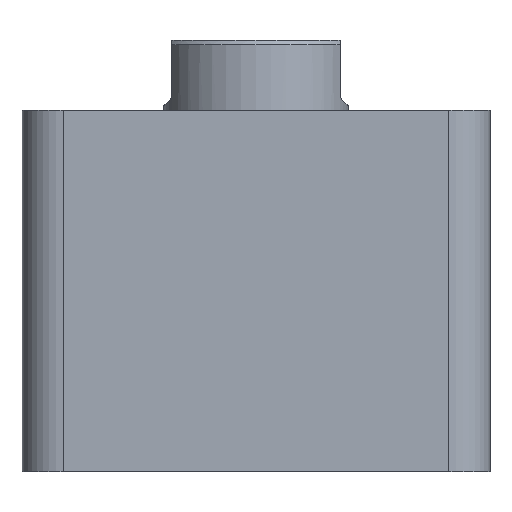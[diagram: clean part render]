
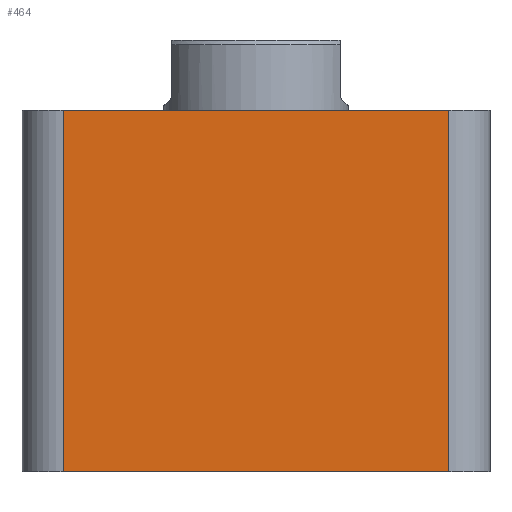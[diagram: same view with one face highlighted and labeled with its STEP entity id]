
A CAD part, front view. The second image highlights one B-rep face of the part: STEP entity #464.
In plain terms, the highlighted planar face has unit normal (0, -1, 0).
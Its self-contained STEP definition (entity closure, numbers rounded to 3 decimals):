
#289 = VERTEX_POINT ( 'NONE', #619 ) ;
#290 = VERTEX_POINT ( 'NONE', #618 ) ;
#301 = VERTEX_POINT ( 'NONE', #607 ) ;
#302 = VERTEX_POINT ( 'NONE', #606 ) ;
#396 = DIRECTION ( 'NONE',  ( 0., 0., 1. ) ) ;
#398 = DIRECTION ( 'NONE',  ( 0., 1., 0. ) ) ;
#403 = CARTESIAN_POINT ( 'NONE',  ( -57., -57., 88. ) ) ;
#411 = PLANE ( 'NONE',  #2121 ) ;
#464 = ADVANCED_FACE ( 'NONE', ( #2244 ), #411, .F. ) ;
#606 = CARTESIAN_POINT ( 'NONE',  ( -47., -57., 0. ) ) ;
#607 = CARTESIAN_POINT ( 'NONE',  ( 47., -57., 0. ) ) ;
#618 = CARTESIAN_POINT ( 'NONE',  ( 47., -57., 88. ) ) ;
#619 = CARTESIAN_POINT ( 'NONE',  ( -47., -57., 88. ) ) ;
#741 = CARTESIAN_POINT ( 'NONE',  ( -57., -57., 0. ) ) ;
#747 = DIRECTION ( 'NONE',  ( 1., 0., 0. ) ) ;
#839 = CARTESIAN_POINT ( 'NONE',  ( 47., -57., 88. ) ) ;
#840 = DIRECTION ( 'NONE',  ( 0., 0., 1. ) ) ;
#841 = CARTESIAN_POINT ( 'NONE',  ( -57., -57., 88. ) ) ;
#842 = DIRECTION ( 'NONE',  ( 1., 0., 0. ) ) ;
#843 = CARTESIAN_POINT ( 'NONE',  ( -47., -57., 88. ) ) ;
#844 = DIRECTION ( 'NONE',  ( 0., 0., -1. ) ) ;
#1258 = EDGE_CURVE ( 'NONE', #302, #301, #2326, .T. ) ;
#1973 = EDGE_CURVE ( 'NONE', #301, #290, #2669, .T. ) ;
#1974 = EDGE_CURVE ( 'NONE', #289, #290, #2667, .T. ) ;
#1975 = EDGE_CURVE ( 'NONE', #289, #302, #2665, .T. ) ;
#2121 = AXIS2_PLACEMENT_3D ( 'NONE', #403, #398, #396 ) ;
#2244 = FACE_OUTER_BOUND ( 'NONE', #2542, .T. ) ;
#2286 = ORIENTED_EDGE ( 'NONE', *, *, #1258, .T. ) ;
#2287 = ORIENTED_EDGE ( 'NONE', *, *, #1973, .T. ) ;
#2288 = ORIENTED_EDGE ( 'NONE', *, *, #1974, .F. ) ;
#2289 = ORIENTED_EDGE ( 'NONE', *, *, #1975, .T. ) ;
#2322 = VECTOR ( 'NONE', #747, 1000. ) ;
#2326 = LINE ( 'NONE', #741, #2322 ) ;
#2542 = EDGE_LOOP ( 'NONE', ( #2286, #2287, #2288, #2289 ) ) ;
#2662 = VECTOR ( 'NONE', #844, 1000. ) ;
#2664 = VECTOR ( 'NONE', #842, 1000. ) ;
#2665 = LINE ( 'NONE', #843, #2662 ) ;
#2666 = VECTOR ( 'NONE', #840, 1000. ) ;
#2667 = LINE ( 'NONE', #841, #2664 ) ;
#2669 = LINE ( 'NONE', #839, #2666 ) ;
